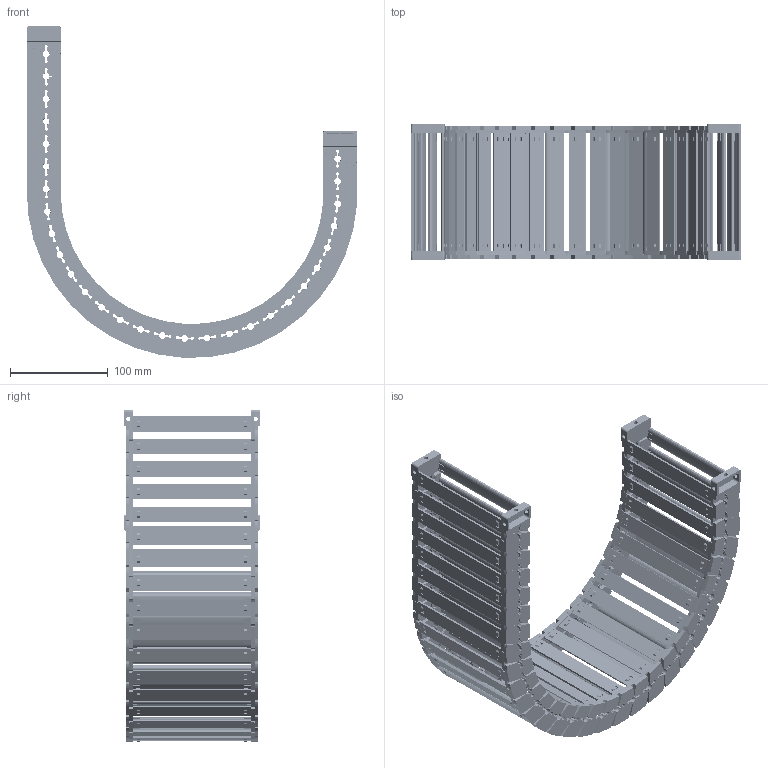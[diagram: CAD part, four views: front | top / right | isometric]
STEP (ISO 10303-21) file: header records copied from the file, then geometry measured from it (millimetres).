
FILE_DESCRIPTION((''),'2;1');
FILE_NAME('JY-28X120-R150_ASM','2026-03-25T20:39:23',('admin'),(''),'CREO PARAMETRIC BY PTC INC, 2021023','CREO PARAMETRIC BY PTC INC, 2021023','');
FILE_SCHEMA(('CONFIG_CONTROL_DESIGN'));
Length unit declared in the file: millimetre
Products named in the file (11): 28XL-L; 25-35XL-YP; 28XL-R; ASM0001_ASM; 28-LTT-A-L; 28-LTT-A-R; 28XL-LTT-A_ASM; 28-LTT-B-L; 28-LTT-B-R; 28XL-LTT-B_ASM; JY-28X120-R150_ASM
Assembly tree (42 placements, depth 3):
  JY-28X120-R150_ASM
    ASM0001_ASM  x28
      28XL-L
      25-35XL-YP
      28XL-R
    28XL-LTT-A_ASM
      28-LTT-A-L
      25-35XL-YP  x2
      28-LTT-A-R
    28XL-LTT-B_ASM
      28-LTT-B-L
      25-35XL-YP  x2
      28-LTT-B-R
Bounding box: 337.23 x 139 x 338.94 mm (x, y, z)
Volume: 674739.6 mm3; surface area: 483201.8 mm2
Topology: 120 solids, 120 shells, 9750 faces, 28988 edges, 19358 vertices
Faces by surface type: plane 6392, cone 1766, cylinder 1394, bspline 198
Entity records: 29175 total; most frequent: CARTESIAN_POINT 9500, ORIENTED_EDGE 4352, DIRECTION 3675, EDGE_CURVE 2176, VERTEX_POINT 1454, VECTOR 1365, LINE 1365, AXIS2_PLACEMENT_3D 1155
